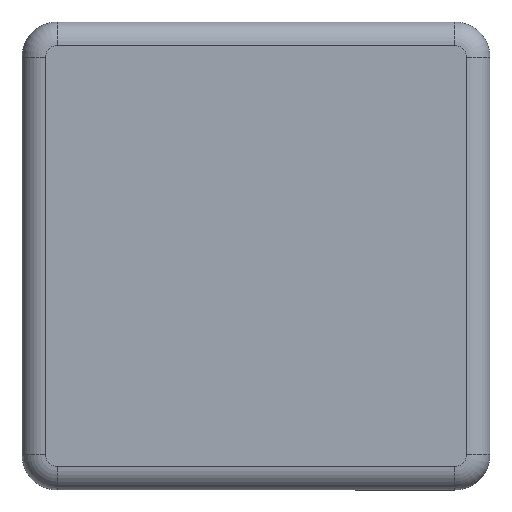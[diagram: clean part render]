
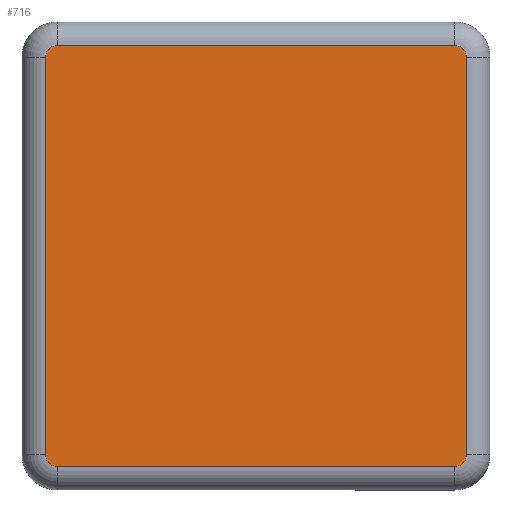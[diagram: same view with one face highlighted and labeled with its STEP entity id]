
A CAD part, front view. The second image highlights one B-rep face of the part: STEP entity #716.
In plain terms, the highlighted planar face has unit normal (0, -1, 0).
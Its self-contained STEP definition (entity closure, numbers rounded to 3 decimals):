
#6 = EDGE_CURVE ( 'NONE', #913, #195, #1230, .T. ) ;
#51 = CARTESIAN_POINT ( 'NONE',  ( 18., -4., -17. ) ) ;
#134 = DIRECTION ( 'NONE',  ( 1., 0., 0. ) ) ;
#143 = VERTEX_POINT ( 'NONE', #668 ) ;
#148 = EDGE_CURVE ( 'NONE', #195, #400, #1298, .T. ) ;
#174 = CARTESIAN_POINT ( 'NONE',  ( 18., -4., 17. ) ) ;
#195 = VERTEX_POINT ( 'NONE', #702 ) ;
#213 = VERTEX_POINT ( 'NONE', #174 ) ;
#217 = CARTESIAN_POINT ( 'NONE',  ( -17., -4., 18. ) ) ;
#228 = EDGE_CURVE ( 'NONE', #400, #397, #797, .T. ) ;
#261 = AXIS2_PLACEMENT_3D ( 'NONE', #1278, #1097, #493 ) ;
#276 = CARTESIAN_POINT ( 'NONE',  ( 17., -4., 17. ) ) ;
#298 = ORIENTED_EDGE ( 'NONE', *, *, #6, .T. ) ;
#314 = VERTEX_POINT ( 'NONE', #391 ) ;
#326 = DIRECTION ( 'NONE',  ( 0., -1., 0. ) ) ;
#336 = AXIS2_PLACEMENT_3D ( 'NONE', #453, #441, #445 ) ;
#367 = CARTESIAN_POINT ( 'NONE',  ( 17., -4., -18. ) ) ;
#375 = DIRECTION ( 'NONE',  ( 0., 0., 1. ) ) ;
#391 = CARTESIAN_POINT ( 'NONE',  ( 17., -4., 18. ) ) ;
#396 = CARTESIAN_POINT ( 'NONE',  ( 18., -4., 17. ) ) ;
#397 = VERTEX_POINT ( 'NONE', #51 ) ;
#399 = DIRECTION ( 'NONE',  ( 0., 0., 1. ) ) ;
#400 = VERTEX_POINT ( 'NONE', #1193 ) ;
#410 = EDGE_CURVE ( 'NONE', #397, #213, #883, .T. ) ;
#417 = CARTESIAN_POINT ( 'NONE',  ( -17., -4., 17. ) ) ;
#441 = DIRECTION ( 'NONE',  ( 0., -1., 0. ) ) ;
#445 = DIRECTION ( 'NONE',  ( 0., 0., 1. ) ) ;
#453 = CARTESIAN_POINT ( 'NONE',  ( -17., -4., -17. ) ) ;
#493 = DIRECTION ( 'NONE',  ( 0., 0., 1. ) ) ;
#505 = DIRECTION ( 'NONE',  ( 0., 0., 1. ) ) ;
#511 = ORIENTED_EDGE ( 'NONE', *, *, #744, .T. ) ;
#523 = DIRECTION ( 'NONE',  ( 0., 0., -1. ) ) ;
#551 = ORIENTED_EDGE ( 'NONE', *, *, #813, .T. ) ;
#553 = VECTOR ( 'NONE', #523, 1000. ) ;
#568 = DIRECTION ( 'NONE',  ( 0., 0., 1. ) ) ;
#586 = EDGE_LOOP ( 'NONE', ( #590, #298, #781, #1099, #987, #921, #511, #551 ) ) ;
#590 = ORIENTED_EDGE ( 'NONE', *, *, #1234, .T. ) ;
#668 = CARTESIAN_POINT ( 'NONE',  ( -17., -4., 18. ) ) ;
#669 = CIRCLE ( 'NONE', #681, 1. ) ;
#681 = AXIS2_PLACEMENT_3D ( 'NONE', #417, #1114, #505 ) ;
#702 = CARTESIAN_POINT ( 'NONE',  ( -17., -4., -18. ) ) ;
#711 = EDGE_CURVE ( 'NONE', #213, #314, #1074, .T. ) ;
#715 = VECTOR ( 'NONE', #568, 1000. ) ;
#716 = ADVANCED_FACE ( 'NONE', ( #1323 ), #795, .F. ) ;
#720 = CARTESIAN_POINT ( 'NONE',  ( -18., -4., -17. ) ) ;
#744 = EDGE_CURVE ( 'NONE', #314, #143, #1050, .T. ) ;
#769 = VERTEX_POINT ( 'NONE', #1236 ) ;
#770 = VECTOR ( 'NONE', #1144, 1000. ) ;
#781 = ORIENTED_EDGE ( 'NONE', *, *, #148, .T. ) ;
#795 = PLANE ( 'NONE',  #261 ) ;
#797 = CIRCLE ( 'NONE', #1053, 1. ) ;
#813 = EDGE_CURVE ( 'NONE', #143, #769, #669, .T. ) ;
#876 = AXIS2_PLACEMENT_3D ( 'NONE', #276, #1006, #399 ) ;
#883 = LINE ( 'NONE', #396, #715 ) ;
#913 = VERTEX_POINT ( 'NONE', #720 ) ;
#921 = ORIENTED_EDGE ( 'NONE', *, *, #711, .T. ) ;
#987 = ORIENTED_EDGE ( 'NONE', *, *, #410, .T. ) ;
#1006 = DIRECTION ( 'NONE',  ( 0., -1., 0. ) ) ;
#1022 = CARTESIAN_POINT ( 'NONE',  ( 17., -4., -17. ) ) ;
#1050 = LINE ( 'NONE', #217, #770 ) ;
#1053 = AXIS2_PLACEMENT_3D ( 'NONE', #1022, #326, #375 ) ;
#1057 = VECTOR ( 'NONE', #134, 1000. ) ;
#1074 = CIRCLE ( 'NONE', #876, 1. ) ;
#1097 = DIRECTION ( 'NONE',  ( 0., 1., 0. ) ) ;
#1099 = ORIENTED_EDGE ( 'NONE', *, *, #228, .T. ) ;
#1114 = DIRECTION ( 'NONE',  ( 0., -1., 0. ) ) ;
#1144 = DIRECTION ( 'NONE',  ( -1., 0., 0. ) ) ;
#1193 = CARTESIAN_POINT ( 'NONE',  ( 17., -4., -18. ) ) ;
#1223 = CARTESIAN_POINT ( 'NONE',  ( -18., -4., -17. ) ) ;
#1230 = CIRCLE ( 'NONE', #336, 1. ) ;
#1234 = EDGE_CURVE ( 'NONE', #769, #913, #1283, .T. ) ;
#1236 = CARTESIAN_POINT ( 'NONE',  ( -18., -4., 17. ) ) ;
#1278 = CARTESIAN_POINT ( 'NONE',  ( 0., -4., 0. ) ) ;
#1283 = LINE ( 'NONE', #1223, #553 ) ;
#1298 = LINE ( 'NONE', #367, #1057 ) ;
#1323 = FACE_OUTER_BOUND ( 'NONE', #586, .T. ) ;
